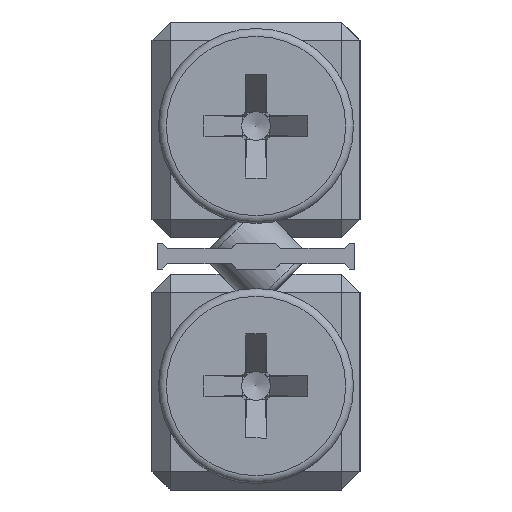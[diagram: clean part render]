
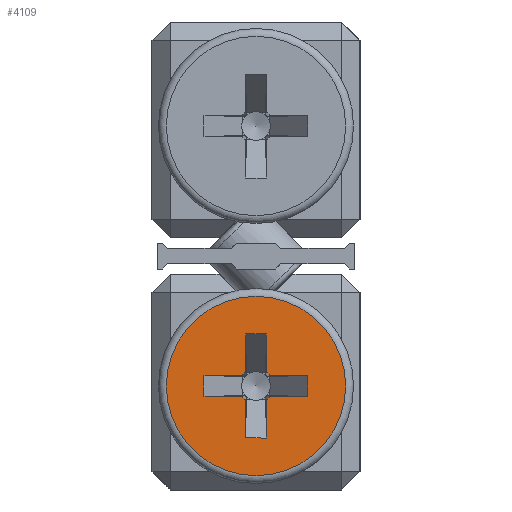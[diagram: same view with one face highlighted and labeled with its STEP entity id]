
A CAD part, left-side view. The second image highlights one B-rep face of the part: STEP entity #4109.
In plain terms, the highlighted planar face has unit normal (-1, 0, 0).
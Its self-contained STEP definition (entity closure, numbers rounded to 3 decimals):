
#6 = CARTESIAN_POINT ( 'NONE',  ( -52., -0.548, 4.4 ) ) ;
#99 = VECTOR ( 'NONE', #11202, 1000. ) ;
#197 = CARTESIAN_POINT ( 'NONE',  ( -52., -2., 3.6 ) ) ;
#490 = VERTEX_POINT ( 'NONE', #16919 ) ;
#666 = DIRECTION ( 'NONE',  ( 0., 0., 1. ) ) ;
#849 = CARTESIAN_POINT ( 'NONE',  ( -52., -0.4, 6. ) ) ;
#862 = VERTEX_POINT ( 'NONE', #15364 ) ;
#1671 = DIRECTION ( 'NONE',  ( -1., 0., 0. ) ) ;
#1768 = CARTESIAN_POINT ( 'NONE',  ( -52., -2., 3.6 ) ) ;
#1855 = VECTOR ( 'NONE', #12640, 1000. ) ;
#2010 = ORIENTED_EDGE ( 'NONE', *, *, #16767, .T. ) ;
#2021 = VERTEX_POINT ( 'NONE', #17533 ) ;
#2190 = EDGE_CURVE ( 'NONE', #9329, #490, #10775, .T. ) ;
#2196 = VERTEX_POINT ( 'NONE', #2618 ) ;
#2281 = LINE ( 'NONE', #12085, #16846 ) ;
#2292 = EDGE_LOOP ( 'NONE', ( #7974 ) ) ;
#2354 = ORIENTED_EDGE ( 'NONE', *, *, #14841, .F. ) ;
#2472 = DIRECTION ( 'NONE',  ( -1., 0., 0. ) ) ;
#2537 = LINE ( 'NONE', #6702, #14372 ) ;
#2542 = DIRECTION ( 'NONE',  ( 0., -1., 0. ) ) ;
#2587 = FACE_OUTER_BOUND ( 'NONE', #2292, .T. ) ;
#2591 = DIRECTION ( 'NONE',  ( 0., 0., 1. ) ) ;
#2599 = ORIENTED_EDGE ( 'NONE', *, *, #10832, .F. ) ;
#2618 = CARTESIAN_POINT ( 'NONE',  ( -52., 2., 3.6 ) ) ;
#3037 = CARTESIAN_POINT ( 'NONE',  ( -52., 0., 4. ) ) ;
#3242 = ORIENTED_EDGE ( 'NONE', *, *, #6174, .T. ) ;
#3380 = CARTESIAN_POINT ( 'NONE',  ( -52., 0.548, 4.4 ) ) ;
#3478 = DIRECTION ( 'NONE',  ( 0., 0., 1. ) ) ;
#3489 = EDGE_CURVE ( 'NONE', #11559, #10121, #10888, .T. ) ;
#3567 = CARTESIAN_POINT ( 'NONE',  ( -52., -0.4, 3.452 ) ) ;
#3801 = CARTESIAN_POINT ( 'NONE',  ( -52., 0., 4. ) ) ;
#4109 = ADVANCED_FACE ( 'NONE', ( #2587, #9396 ), #17589, .F. ) ;
#4226 = VERTEX_POINT ( 'NONE', #9662 ) ;
#4319 = EDGE_CURVE ( 'NONE', #5950, #862, #13398, .T. ) ;
#4457 = VERTEX_POINT ( 'NONE', #11063 ) ;
#4872 = EDGE_CURVE ( 'NONE', #4226, #17346, #5236, .T. ) ;
#5001 = DIRECTION ( 'NONE',  ( 0., 0., 1. ) ) ;
#5029 = VECTOR ( 'NONE', #16065, 1000. ) ;
#5236 = LINE ( 'NONE', #9425, #7287 ) ;
#5435 = DIRECTION ( 'NONE',  ( 0., 0., -1. ) ) ;
#5476 = EDGE_CURVE ( 'NONE', #13365, #490, #10387, .T. ) ;
#5644 = CARTESIAN_POINT ( 'NONE',  ( -52., 0.4, 2. ) ) ;
#5950 = VERTEX_POINT ( 'NONE', #11992 ) ;
#6004 = VERTEX_POINT ( 'NONE', #17820 ) ;
#6174 = EDGE_CURVE ( 'NONE', #8453, #10121, #14193, .T. ) ;
#6251 = CARTESIAN_POINT ( 'NONE',  ( -52., -0.4, 6. ) ) ;
#6354 = DIRECTION ( 'NONE',  ( 0., 0., -1. ) ) ;
#6627 = VECTOR ( 'NONE', #12313, 1000. ) ;
#6660 = AXIS2_PLACEMENT_3D ( 'NONE', #11657, #17314, #666 ) ;
#6702 = CARTESIAN_POINT ( 'NONE',  ( -52., -0.4, 6. ) ) ;
#6762 = DIRECTION ( 'NONE',  ( 0., 0., -1. ) ) ;
#6817 = CARTESIAN_POINT ( 'NONE',  ( -52., -0.4, 6. ) ) ;
#6886 = CARTESIAN_POINT ( 'NONE',  ( -52., 2., 4.4 ) ) ;
#7132 = ORIENTED_EDGE ( 'NONE', *, *, #15439, .T. ) ;
#7138 = LINE ( 'NONE', #11121, #6627 ) ;
#7189 = ORIENTED_EDGE ( 'NONE', *, *, #5476, .F. ) ;
#7197 = DIRECTION ( 'NONE',  ( 0., 1., 0. ) ) ;
#7287 = VECTOR ( 'NONE', #14992, 1000. ) ;
#7289 = CARTESIAN_POINT ( 'NONE',  ( -52., -2., 3.6 ) ) ;
#7661 = CIRCLE ( 'NONE', #9975, 3.45 ) ;
#7974 = ORIENTED_EDGE ( 'NONE', *, *, #16998, .T. ) ;
#8156 = VECTOR ( 'NONE', #3478, 1000. ) ;
#8386 = EDGE_LOOP ( 'NONE', ( #9783, #3242, #13292, #2010, #16165, #16344, #11694, #10155, #2354, #7132, #2599, #15550, #13067, #11537, #7189, #14093 ) ) ;
#8453 = VERTEX_POINT ( 'NONE', #3567 ) ;
#9093 = VECTOR ( 'NONE', #15900, 1000. ) ;
#9178 = CARTESIAN_POINT ( 'NONE',  ( -52., 0., 4. ) ) ;
#9271 = VECTOR ( 'NONE', #7197, 1000. ) ;
#9329 = VERTEX_POINT ( 'NONE', #6 ) ;
#9396 = FACE_BOUND ( 'NONE', #8386, .T. ) ;
#9425 = CARTESIAN_POINT ( 'NONE',  ( -52., 2., 4.4 ) ) ;
#9599 = DIRECTION ( 'NONE',  ( 0., -1., 0. ) ) ;
#9662 = CARTESIAN_POINT ( 'NONE',  ( -52., 2., 4.4 ) ) ;
#9783 = ORIENTED_EDGE ( 'NONE', *, *, #15393, .F. ) ;
#9975 = AXIS2_PLACEMENT_3D ( 'NONE', #3801, #13178, #6354 ) ;
#10121 = VERTEX_POINT ( 'NONE', #16543 ) ;
#10155 = ORIENTED_EDGE ( 'NONE', *, *, #4872, .T. ) ;
#10168 = AXIS2_PLACEMENT_3D ( 'NONE', #9178, #2472, #5001 ) ;
#10217 = CARTESIAN_POINT ( 'NONE',  ( -52., -0.4, 4.548 ) ) ;
#10239 = VECTOR ( 'NONE', #9599, 1000. ) ;
#10387 = LINE ( 'NONE', #15961, #8156 ) ;
#10499 = AXIS2_PLACEMENT_3D ( 'NONE', #3037, #1671, #16584 ) ;
#10545 = DIRECTION ( 'NONE',  ( 0., 0., 1. ) ) ;
#10658 = VERTEX_POINT ( 'NONE', #10217 ) ;
#10703 = CARTESIAN_POINT ( 'NONE',  ( -52., 0.4, 2. ) ) ;
#10748 = DIRECTION ( 'NONE',  ( -1., 0., 0. ) ) ;
#10775 = LINE ( 'NONE', #6886, #10239 ) ;
#10832 = EDGE_CURVE ( 'NONE', #17391, #2021, #13578, .T. ) ;
#10888 = LINE ( 'NONE', #10703, #11452 ) ;
#11063 = CARTESIAN_POINT ( 'NONE',  ( -52., -0.548, 3.6 ) ) ;
#11121 = CARTESIAN_POINT ( 'NONE',  ( -52., 2., 4.4 ) ) ;
#11202 = DIRECTION ( 'NONE',  ( 0., 1., 0. ) ) ;
#11452 = VECTOR ( 'NONE', #2542, 1000. ) ;
#11537 = ORIENTED_EDGE ( 'NONE', *, *, #2190, .T. ) ;
#11559 = VERTEX_POINT ( 'NONE', #12900 ) ;
#11657 = CARTESIAN_POINT ( 'NONE',  ( -52., 0., 4. ) ) ;
#11694 = ORIENTED_EDGE ( 'NONE', *, *, #13610, .F. ) ;
#11992 = CARTESIAN_POINT ( 'NONE',  ( -52., 0.548, 3.6 ) ) ;
#12085 = CARTESIAN_POINT ( 'NONE',  ( -52., 0.4, 2. ) ) ;
#12088 = EDGE_CURVE ( 'NONE', #9329, #10658, #15531, .T. ) ;
#12118 = CARTESIAN_POINT ( 'NONE',  ( -52., 0., 4. ) ) ;
#12160 = EDGE_CURVE ( 'NONE', #13365, #4457, #13861, .T. ) ;
#12197 = CARTESIAN_POINT ( 'NONE',  ( -52., 3.75, 4. ) ) ;
#12313 = DIRECTION ( 'NONE',  ( 0., 0., -1. ) ) ;
#12640 = DIRECTION ( 'NONE',  ( 0., 0., 1. ) ) ;
#12900 = CARTESIAN_POINT ( 'NONE',  ( -52., 0.4, 2. ) ) ;
#13067 = ORIENTED_EDGE ( 'NONE', *, *, #12088, .F. ) ;
#13178 = DIRECTION ( 'NONE',  ( -1., 0., 0. ) ) ;
#13292 = ORIENTED_EDGE ( 'NONE', *, *, #3489, .F. ) ;
#13365 = VERTEX_POINT ( 'NONE', #1768 ) ;
#13398 = CIRCLE ( 'NONE', #10499, 0.678 ) ;
#13578 = LINE ( 'NONE', #849, #5029 ) ;
#13610 = EDGE_CURVE ( 'NONE', #4226, #2196, #7138, .T. ) ;
#13636 = CIRCLE ( 'NONE', #6660, 0.678 ) ;
#13861 = LINE ( 'NONE', #197, #99 ) ;
#13921 = LINE ( 'NONE', #5644, #1855 ) ;
#14004 = AXIS2_PLACEMENT_3D ( 'NONE', #12197, #16236, #6762 ) ;
#14093 = ORIENTED_EDGE ( 'NONE', *, *, #12160, .T. ) ;
#14193 = LINE ( 'NONE', #6251, #9093 ) ;
#14372 = VECTOR ( 'NONE', #5435, 1000. ) ;
#14486 = LINE ( 'NONE', #7289, #9271 ) ;
#14841 = EDGE_CURVE ( 'NONE', #6004, #17346, #13636, .T. ) ;
#14992 = DIRECTION ( 'NONE',  ( 0., -1., 0. ) ) ;
#15275 = EDGE_CURVE ( 'NONE', #5950, #2196, #14486, .T. ) ;
#15364 = CARTESIAN_POINT ( 'NONE',  ( -52., 0.4, 3.452 ) ) ;
#15393 = EDGE_CURVE ( 'NONE', #8453, #4457, #15701, .T. ) ;
#15439 = EDGE_CURVE ( 'NONE', #6004, #2021, #2281, .T. ) ;
#15531 = CIRCLE ( 'NONE', #15842, 0.678 ) ;
#15550 = ORIENTED_EDGE ( 'NONE', *, *, #17142, .T. ) ;
#15701 = CIRCLE ( 'NONE', #10168, 0.678 ) ;
#15842 = AXIS2_PLACEMENT_3D ( 'NONE', #12118, #10748, #2591 ) ;
#15900 = DIRECTION ( 'NONE',  ( 0., 0., -1. ) ) ;
#15961 = CARTESIAN_POINT ( 'NONE',  ( -52., -2., 3.6 ) ) ;
#15962 = VERTEX_POINT ( 'NONE', #17311 ) ;
#16065 = DIRECTION ( 'NONE',  ( 0., 1., 0. ) ) ;
#16165 = ORIENTED_EDGE ( 'NONE', *, *, #4319, .F. ) ;
#16236 = DIRECTION ( 'NONE',  ( 1., 0., 0. ) ) ;
#16344 = ORIENTED_EDGE ( 'NONE', *, *, #15275, .T. ) ;
#16543 = CARTESIAN_POINT ( 'NONE',  ( -52., -0.4, 2. ) ) ;
#16584 = DIRECTION ( 'NONE',  ( 0., 0., 1. ) ) ;
#16767 = EDGE_CURVE ( 'NONE', #11559, #862, #13921, .T. ) ;
#16846 = VECTOR ( 'NONE', #10545, 1000. ) ;
#16919 = CARTESIAN_POINT ( 'NONE',  ( -52., -2., 4.4 ) ) ;
#16998 = EDGE_CURVE ( 'NONE', #15962, #15962, #7661, .T. ) ;
#17142 = EDGE_CURVE ( 'NONE', #17391, #10658, #2537, .T. ) ;
#17311 = CARTESIAN_POINT ( 'NONE',  ( -52., 0., 0.55 ) ) ;
#17314 = DIRECTION ( 'NONE',  ( -1., 0., 0. ) ) ;
#17346 = VERTEX_POINT ( 'NONE', #3380 ) ;
#17391 = VERTEX_POINT ( 'NONE', #6817 ) ;
#17533 = CARTESIAN_POINT ( 'NONE',  ( -52., 0.4, 6. ) ) ;
#17589 = PLANE ( 'NONE',  #14004 ) ;
#17820 = CARTESIAN_POINT ( 'NONE',  ( -52., 0.4, 4.548 ) ) ;
